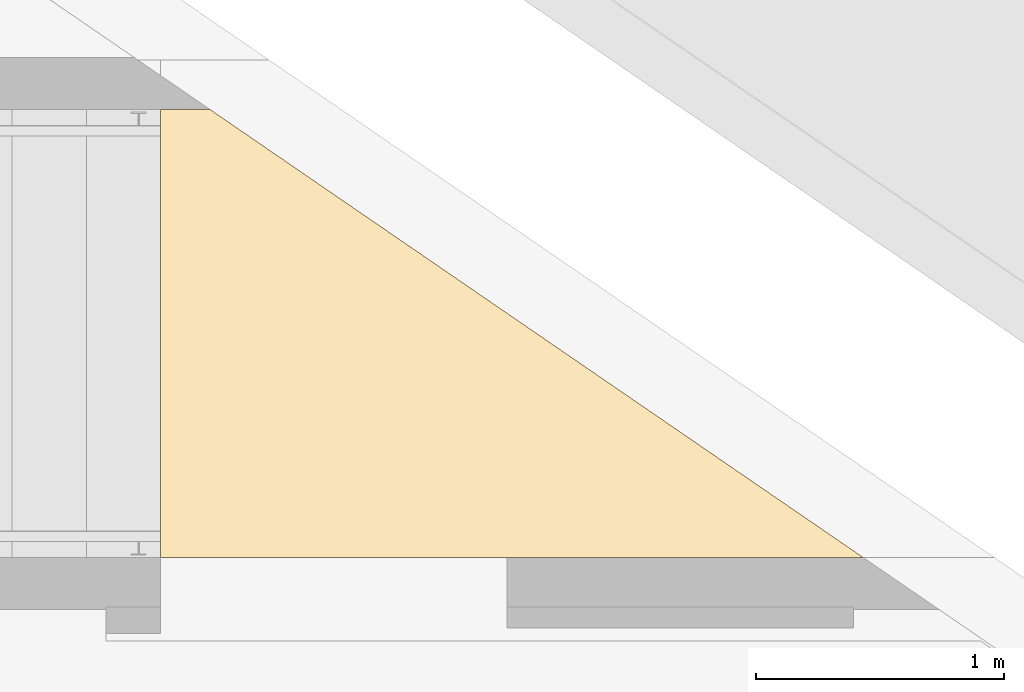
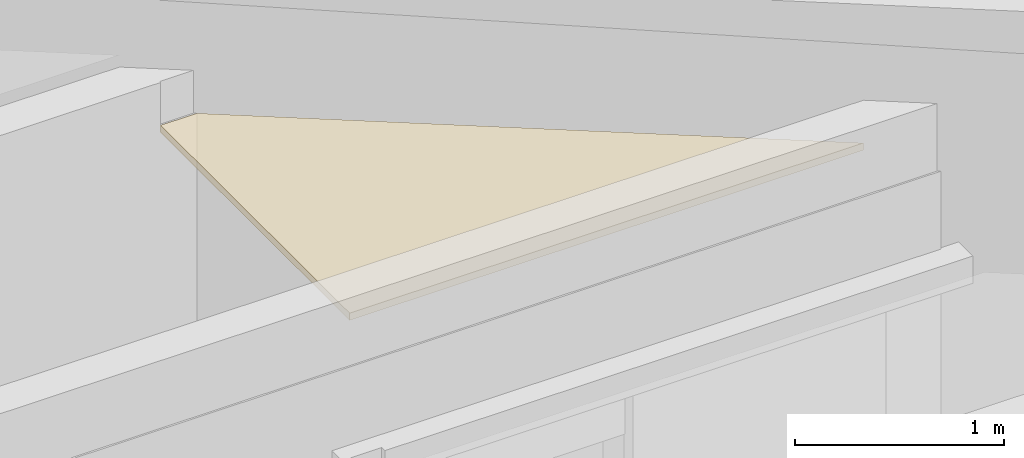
# One storey, part 185 of 246: 1 covering.
"""IFC2X3 building model written with IfcOpenShell, lengths in millimetres."""

from ifc_helpers import new_model, entity, si_unit, converted_unit, derived_unit, money_unit, direction, frame, origin_with_axes, place, context, subcontext, project, spatial, faceted_brep, material, type_object, element, save


model = new_model("IFC2X3")

# Units and contexts
model_context = context("Model", 3, precision=0.01, world=origin_with_axes(), true_north=direction((0.0, 1.0)))
body_context = subcontext(model_context, "Body", "Model", "MODEL_VIEW")
ifc_project = project(units=[si_unit("LENGTHUNIT", "METRE", prefix="MILLI"), si_unit("AREAUNIT", "SQUARE_METRE"), si_unit("VOLUMEUNIT", "CUBIC_METRE"), converted_unit("PLANEANGLEUNIT", "DEGREE", entity("IfcPlaneAngleMeasure", 0.0174532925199), si_unit("PLANEANGLEUNIT", "RADIAN"), dimensions=[0, 0, 0, 0, 0, 0, 0]), si_unit("SOLIDANGLEUNIT", "STERADIAN"), money_unit("EUR"), converted_unit("TIMEUNIT", "Year", entity("IfcTimeMeasure", 31556926.0), si_unit("TIMEUNIT", "SECOND"), dimensions=[0, 0, 1, 0, 0, 0, 0]), si_unit("MASSUNIT", "GRAM", prefix="KILO"), si_unit("THERMODYNAMICTEMPERATUREUNIT", "DEGREE_CELSIUS"), si_unit("LUMINOUSINTENSITYUNIT", "LUMEN"), si_unit("ENERGYUNIT", "JOULE", prefix="MEGA"), derived_unit("THERMALCONDUCTANCEUNIT", [(si_unit("POWERUNIT", "WATT"), 1), (si_unit("LENGTHUNIT", "METRE"), -1), (si_unit("THERMODYNAMICTEMPERATUREUNIT", "KELVIN"), -1)]), derived_unit("SPECIFICHEATCAPACITYUNIT", [(si_unit("ENERGYUNIT", "JOULE"), 1), (si_unit("MASSUNIT", "GRAM", prefix="KILO"), -1), (si_unit("THERMODYNAMICTEMPERATUREUNIT", "KELVIN"), -1)]), derived_unit("MASSDENSITYUNIT", [(si_unit("MASSUNIT", "GRAM", prefix="KILO"), 1), (si_unit("VOLUMEUNIT", "CUBIC_METRE"), -1)])], contexts=[model_context])

# Site, building, storey
site_placement = place(None, origin_with_axes())
site = spatial("IfcSite", under=ifc_project, at=site_placement, Name="L.Koidula tn 11b", CompositionType="ELEMENT")
building_placement = place(site_placement, origin_with_axes())
building = spatial("IfcBuilding", under=site, at=building_placement, Name="Rakvere Riigigümnaasium", CompositionType="ELEMENT")
storey_placement = place(building_placement, origin_with_axes())
storey = spatial("IfcBuildingStorey", under=building, at=storey_placement, Name="1.korrus 0,00", CompositionType="ELEMENT", Elevation=0.0)

# Covering
ifc_material = material(Name="Krohv akustiline")
covering_type = type_object("IfcCoveringType", Name="Krohv akustiline 42", PredefinedType="CEILING")
covering_placement = place(storey_placement, frame((85589.9999916, 15300.4563111, 3470.0), z_axis=(0.0, 0.0, 1.0), x_axis=(1.0, 0.0, 0.0)))
element("IfcCovering", 1, at=covering_placement, inside=storey, type_object=covering_type, material=ifc_material, Name="L-06", PredefinedType="CEILING", context=body_context, shape_type="Brep", body=[
    faceted_brep([(0.0, 0.0, 0.0), (0.0, 0.0, -42.0), (2839.26319413, -0.00520392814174, -42.0), (2839.26319413, -0.00520392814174, 0.0), (0.0, 1809.99920546, 0.0), (0.0, 1809.99920546, -42.0), (200.310329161, 1809.99924755, -42.0), (200.310329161, 1809.99924755, 0.0)], [[[0, 1, 2, 3]], [[4, 5, 1, 0]], [[2, 1, 5, 6]], [[3, 2, 6, 7]], [[4, 0, 3, 7]], [[7, 6, 5, 4]]]),
])

save(model, "model.ifc")
